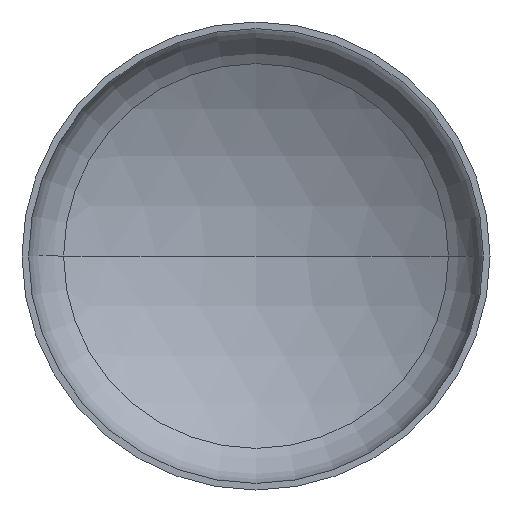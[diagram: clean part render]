
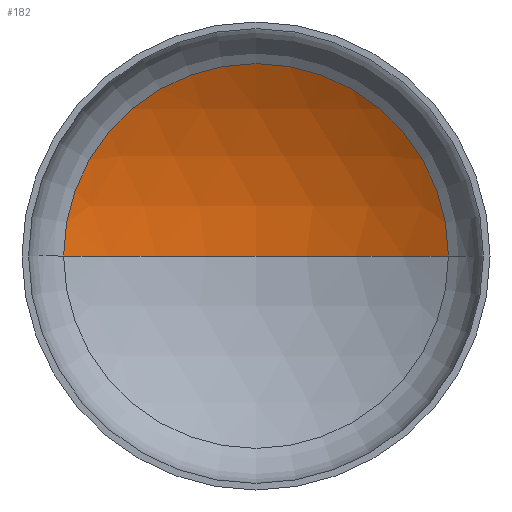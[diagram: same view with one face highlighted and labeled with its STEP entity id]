
A CAD part, front view. The second image highlights one B-rep face of the part: STEP entity #182.
In plain terms, the highlighted spherical face has radius 5200 mm.
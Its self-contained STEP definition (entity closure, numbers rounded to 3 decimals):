
#23 = AXIS2_PLACEMENT_3D ( 'NONE', #177, #198, #176 ) ;
#47 = AXIS2_PLACEMENT_3D ( 'NONE', #397, #393, #392 ) ;
#48 = AXIS2_PLACEMENT_3D ( 'NONE', #145, #114, #115 ) ;
#50 = AXIS2_PLACEMENT_3D ( 'NONE', #164, #156, #160 ) ;
#54 = CIRCLE ( 'NONE', #47, 5200. ) ;
#60 = CIRCLE ( 'NONE', #50, 2671.81 ) ;
#61 = EDGE_LOOP ( 'NONE', ( #371, #383, #224 ) ) ;
#86 = CARTESIAN_POINT ( 'NONE',  ( 2671.81, 957.904, 0. ) ) ;
#89 = CARTESIAN_POINT ( 'NONE',  ( 0., 1696.802, 0. ) ) ;
#109 = EDGE_CURVE ( 'NONE', #277, #334, #60, .T. ) ;
#113 = EDGE_CURVE ( 'NONE', #193, #277, #221, .T. ) ;
#114 = DIRECTION ( 'NONE',  ( 0., 0., -1. ) ) ;
#115 = DIRECTION ( 'NONE',  ( -1., 0., 0. ) ) ;
#116 = EDGE_CURVE ( 'NONE', #193, #334, #54, .T. ) ;
#145 = CARTESIAN_POINT ( 'NONE',  ( 0., -3503.198, 0. ) ) ;
#156 = DIRECTION ( 'NONE',  ( 0., -1., 0. ) ) ;
#160 = DIRECTION ( 'NONE',  ( 1., 0., 0. ) ) ;
#164 = CARTESIAN_POINT ( 'NONE',  ( 0., 957.904, 0. ) ) ;
#176 = DIRECTION ( 'NONE',  ( -1., 0., 0. ) ) ;
#177 = CARTESIAN_POINT ( 'NONE',  ( 0., -3503.198, 0. ) ) ;
#182 = ADVANCED_FACE ( 'NONE', ( #360 ), #283, .F. ) ;
#193 = VERTEX_POINT ( 'NONE', #89 ) ;
#198 = DIRECTION ( 'NONE',  ( 0., 0., -1. ) ) ;
#221 = CIRCLE ( 'NONE', #48, 5200. ) ;
#224 = ORIENTED_EDGE ( 'NONE', *, *, #109, .T. ) ;
#277 = VERTEX_POINT ( 'NONE', #86 ) ;
#283 = SPHERICAL_SURFACE ( 'NONE', #23, 5200. ) ;
#334 = VERTEX_POINT ( 'NONE', #354 ) ;
#354 = CARTESIAN_POINT ( 'NONE',  ( -2671.81, 957.904, 0. ) ) ;
#360 = FACE_OUTER_BOUND ( 'NONE', #61, .T. ) ;
#371 = ORIENTED_EDGE ( 'NONE', *, *, #116, .F. ) ;
#383 = ORIENTED_EDGE ( 'NONE', *, *, #113, .T. ) ;
#392 = DIRECTION ( 'NONE',  ( 1., 0., 0. ) ) ;
#393 = DIRECTION ( 'NONE',  ( 0., 0., 1. ) ) ;
#397 = CARTESIAN_POINT ( 'NONE',  ( 0., -3503.198, 0. ) ) ;
